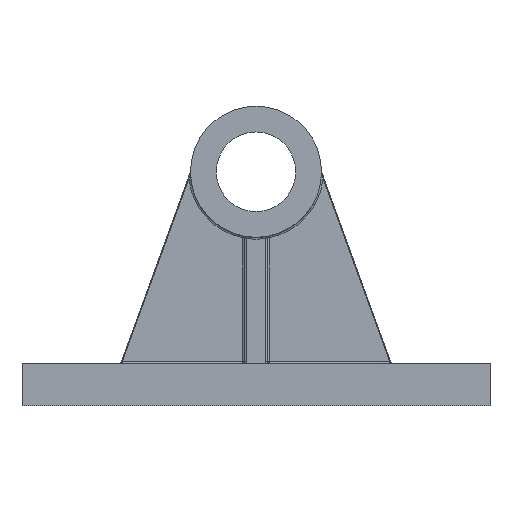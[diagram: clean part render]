
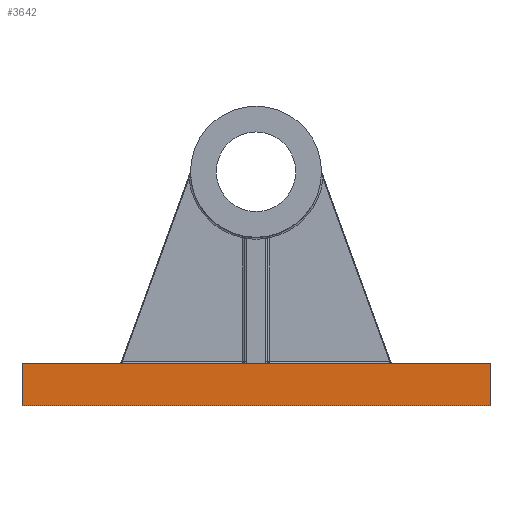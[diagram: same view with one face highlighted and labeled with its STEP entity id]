
A CAD part, front view. The second image highlights one B-rep face of the part: STEP entity #3642.
In plain terms, the highlighted planar face has unit normal (0, -1, 0).
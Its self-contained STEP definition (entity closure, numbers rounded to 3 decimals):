
#2749=CARTESIAN_POINT('',(250.,-250.,45.0));
#2750=VERTEX_POINT('',#2749);
#2765=CARTESIAN_POINT('',(-250.,-250.,45.0));
#2766=VERTEX_POINT('',#2765);
#2773=CARTESIAN_POINT('',(250.,-250.,45.0));
#2774=DIRECTION('',(-1.0,0.0,0.0));
#2775=VECTOR('',#2774,500.);
#2776=LINE('',#2773,#2775);
#2777=EDGE_CURVE('',#2750,#2766,#2776,.T.);
#3594=CARTESIAN_POINT('',(250.,-250.,0.0));
#3595=VERTEX_POINT('',#3594);
#3596=CARTESIAN_POINT('',(250.,-250.,0.0));
#3597=DIRECTION('',(0.0,0.0,1.0));
#3598=VECTOR('',#3597,45.0);
#3599=LINE('',#3596,#3598);
#3600=EDGE_CURVE('',#3595,#2750,#3599,.T.);
#3619=CARTESIAN_POINT('',(250.,-250.,0.0));
#3620=DIRECTION('',(0.0,-1.0,0.0));
#3621=DIRECTION('',(0.0,0.0,-1.0));
#3622=AXIS2_PLACEMENT_3D('',#3619,#3620,#3621);
#3623=PLANE('',#3622);
#3624=ORIENTED_EDGE('',*,*,#2777,.T.);
#3625=CARTESIAN_POINT('',(-250.,-250.,0.0));
#3626=VERTEX_POINT('',#3625);
#3627=CARTESIAN_POINT('',(-250.,-250.,0.0));
#3628=DIRECTION('',(0.0,0.0,1.0));
#3629=VECTOR('',#3628,45.0);
#3630=LINE('',#3627,#3629);
#3631=EDGE_CURVE('',#3626,#2766,#3630,.T.);
#3632=ORIENTED_EDGE('',*,*,#3631,.F.);
#3633=CARTESIAN_POINT('',(-250.,-250.,0.0));
#3634=DIRECTION('',(1.0,0.0,0.0));
#3635=VECTOR('',#3634,500.);
#3636=LINE('',#3633,#3635);
#3637=EDGE_CURVE('',#3626,#3595,#3636,.T.);
#3638=ORIENTED_EDGE('',*,*,#3637,.T.);
#3639=ORIENTED_EDGE('',*,*,#3600,.T.);
#3640=EDGE_LOOP('',(#3624,#3632,#3638,#3639));
#3641=FACE_OUTER_BOUND('',#3640,.T.);
#3642=ADVANCED_FACE('',(#3641),#3623,.T.);
